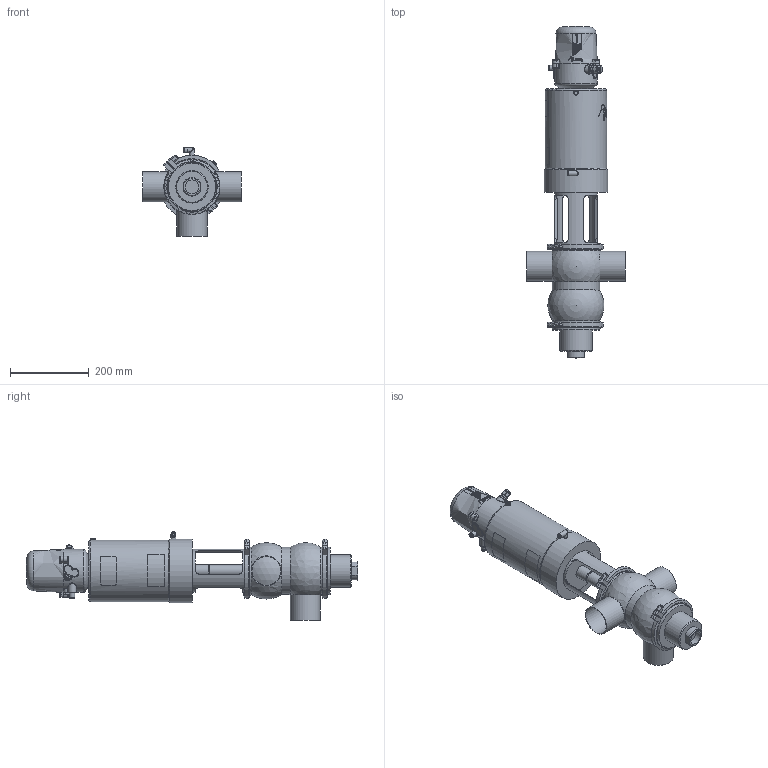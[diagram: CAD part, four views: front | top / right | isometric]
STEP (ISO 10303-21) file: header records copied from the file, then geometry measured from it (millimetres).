
FILE_DESCRIPTION (( 'STEP AP214' ), '1' );
FILE_NAME ('INNOVA S AB-90 W OD 3 & C-TOP S_10.251.16.0011.STEP', '2024-08-19T11:02:52', ( '' ), ( '' ), 'SwSTEP 2.0', 'SolidWorks 2023', '' );
FILE_SCHEMA (( 'AUTOMOTIVE_DESIGN' ));
Length unit declared in the file: millimetre
Products named in the file (7): INNOVA S AB-90 W OD 3 & C-TOP S_10.251.16.0011; 10.251.15.0002_DN 3"; 10.251.15.0003_OD 3"; 10.426.15.0001_C-TOP S - 1 EV; 10.251.15.0001_OD 3"; 10.250.15.0002_Type S T2; 10.240.15.0001_DN 080
Assembly tree (7 placements, depth 2):
  INNOVA S AB-90 W OD 3 & C-TOP S_10.251.16.0011
    10.251.15.0001_OD 3"
    10.250.15.0002_Type S T2
    10.426.15.0001_C-TOP S - 1 EV
    10.251.15.0003_OD 3"
    10.240.15.0001_DN 080  x2
    10.251.15.0002_DN 3"
Bounding box: 250 x 842.1 x 224 mm (x, y, z)
Volume: 10188287.8 mm3; surface area: 642432.1 mm2
Topology: 7 solids, 7 shells, 1188 faces, 2865 edges, 1904 vertices
Faces by surface type: plane 413, cylinder 371, cone 202, bspline 160, torus 33, sphere 9
Full cylindrical faces by diameter (mm): 0.371 x17, 0.512 x16, 0.658 x16, 0.795 x16, 0.94 x15, 1.098 x15, 1.241 x13, 1.382 x13, 1.523 x11, 1.669 x10, 2.201 x1, 4.2 x2, 5 x1, 5.5 x2, 6 x3, 6.15 x1, 8 x5, 8.5 x1, 10 x1, 10.5 x2, 11 x2, 12.5 x6, 13 x2, 13.5 x2, 17 x3, 20 x2, 22 x2, 30.5 x1, 32 x1, 35 x1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
Entity records: 59332 total; most frequent: CARTESIAN_POINT 28525, ORIENTED_EDGE 4586, DIRECTION 3703, EDGE_CURVE 2293, VERTEX_POINT 1625, EDGE_LOOP 1586, AXIS2_PLACEMENT_3D 1512, FACE_OUTER_BOUND 1345
